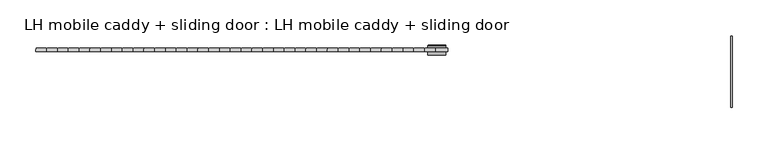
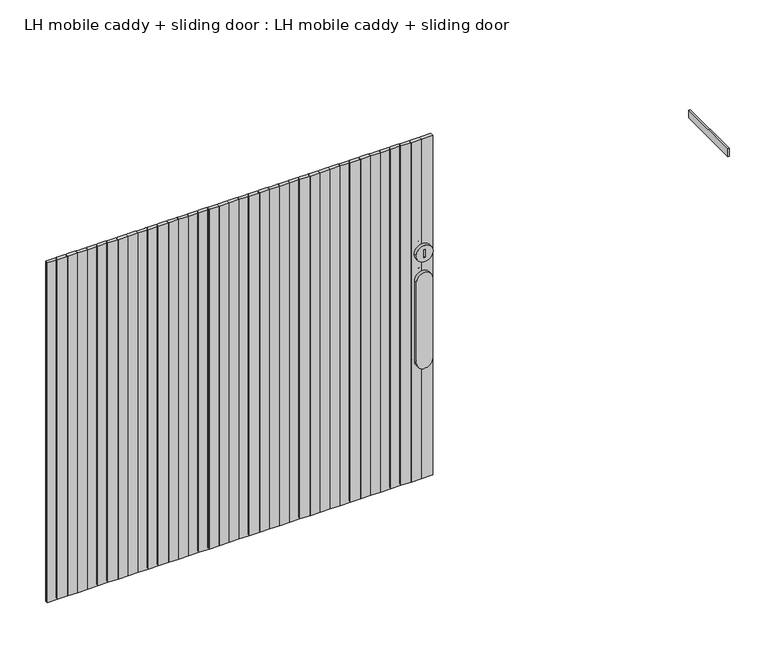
"""IFC4 building model written with IfcOpenShell, lengths in millimetres: furniture geometry, LH mobile caddy + sliding door : LH mobile caddy + sliding door."""

from ifc_helpers import new_model, si_unit, point, frame, frame_2d, origin, place, context, project, spatial, polyline, circle_curve, ellipse_curve, trimmed, segment, composite_curve, outline, extrude, source, transform, mapped, element, save
from ifc_brep_helpers import plane_surface, cylinder_surface, revolved_surface, advanced_brep


def lh_mobile_caddy_sliding_door_lh_mobile_caddy_sliding_door_960350dd(model_context):
    return source(origin(), model_context, "Body", "SolidModel", [
        advanced_brep(
        [(73.4473365, 237.0, 419.8527704), (96.5526635, 237.0, 419.8527704), (86.0273848, 237.0, 425.9207724), (84.0273848, 237.0, 425.9207724), (84.0273848, 237.0, 413.9207724), (86.0273848, 237.0, 413.9207724), (72.4473365, 223.0, 419.8527704), (97.5526635, 223.0, 419.8527704), (86.0273848, 223.0, 425.9207724), (86.0273848, 223.0, 413.9207724), (84.0273848, 223.0, 413.9207724), (84.0273848, 223.0, 425.9207724), (72.4473365, 236.0, 419.8527704), (97.5526635, 236.0, 419.8527704)],
        [
            (0, 1, circle_curve(frame((85.0, 237.0, 419.8527704), z_axis=(0.0, 1.0, 0.0), x_axis=(-1.0, 0.0, 0.0)), 11.5526635)),
            (1, 0, circle_curve(frame((85.0, 237.0, 419.8527704), z_axis=(0.0, 1.0, 0.0), x_axis=(1.0, 0.0, 0.0)), 11.5526635)),
            (2, 3),
            (3, 4),
            (4, 5),
            (5, 2),
            (6, 7, circle_curve(frame((85.0, 223.0, 419.8527704), z_axis=(0.0, -1.0, 0.0), x_axis=(1.0, 0.0, 0.0)), 12.5526635)),
            (7, 6, circle_curve(frame((85.0, 223.0, 419.8527704), z_axis=(0.0, -1.0, 0.0), x_axis=(1.0, 0.0, 0.0)), 12.5526635)),
            (8, 9),
            (9, 10),
            (10, 11),
            (11, 8),
            (6, 12),
            (12, 13, circle_curve(frame((85.0, 236.0, 419.8527704), z_axis=(0.0, -1.0, 0.0), x_axis=(1.0, 0.0, 0.0)), 12.5526635)),
            (13, 7),
            (13, 12, circle_curve(frame((85.0, 236.0, 419.8527704), z_axis=(0.0, -1.0, 0.0), x_axis=(1.0, 0.0, 0.0)), 12.5526635)),
            (5, 9),
            (8, 2),
            (4, 10),
            (3, 11),
            (1, 13, circle_curve(frame((96.5526635, 236.0, 419.8527704), z_axis=(0.0, 0.0, -1.0), x_axis=(1.0, 0.0, 0.0)), 1.0)),
            (12, 0, circle_curve(frame((73.4473365, 236.0, 419.8527704), z_axis=(0.0, 0.0, -1.0), x_axis=(-1.0, 0.0, 0.0)), 1.0)),
        ],
        [
            plane_surface(frame((97.5526635, 237.0, 419.8527704), z_axis=(0.0, 1.0, 0.0), x_axis=(0.0, 0.0, 1.0))),
            plane_surface(frame((97.5526635, 223.0, 419.8527704), z_axis=(0.0, -1.0, 0.0), x_axis=(0.0, 0.0, -1.0))),
            cylinder_surface(frame((85.0, 223.0, 419.8527704), z_axis=(0.0, 1.0, 0.0), x_axis=(1.0, 0.0, 0.0)), 12.5526635),
            plane_surface(frame((86.0273848, 237.0, 425.9207724), z_axis=(-1.0, 0.0, 0.0), x_axis=(0.0, -1.0, 0.0))),
            plane_surface(frame((86.0273848, 237.0, 413.9207724), z_axis=(0.0, 0.0, 1.0), x_axis=(0.0, -1.0, 0.0))),
            plane_surface(frame((84.0273848, 237.0, 413.9207724), z_axis=(1.0, 0.0, 0.0), x_axis=(0.0, -1.0, 0.0))),
            plane_surface(frame((84.0273848, 237.0, 425.9207724), z_axis=(0.0, 0.0, -1.0), x_axis=(0.0, -1.0, 0.0))),
            revolved_surface(trimmed(ellipse_curve(frame((96.5526635, 236.0, 419.8527704), z_axis=(0.0, 0.0, -1.0), x_axis=(1.0, 0.0, 0.0)), 1.0, 1.0), [point((96.5526635, 237.0, 419.8527704))], [point((97.5526635, 236.0, 419.8527704))], True, "CARTESIAN"), (85.0, 237.0, 419.8527704), (0.0, -1.0, 0.0)),
            revolved_surface(trimmed(ellipse_curve(frame((73.4473365, 236.0, 419.8527704), z_axis=(0.0, 0.0, 1.0), x_axis=(-1.0, 0.0, 0.0)), 1.0, 1.0), [point((73.4473365, 237.0, 419.8527704))], [point((72.4473365, 236.0, 419.8527704))], True, "CARTESIAN"), (85.0, 237.0, 419.8527704), (0.0, -1.0, 0.0)),
        ],
        [
            (0, [[1, 2], [3, 4, 5, 6]]),
            (1, [[7, 8], [9, 10, 11, 12]]),
            (2, [[13, 14, 15, -7]]),
            (2, [[-15, 16, -13, -8]]),
            (3, [[17, -9, 18, -6]]),
            (4, [[19, -10, -17, -5]]),
            (5, [[20, -11, -19, -4]]),
            (6, [[-18, -12, -20, -3]]),
            (7, [[-2, 21, -14, 22]]),
            (8, [[-16, -21, -1, -22]]),
        ],
    ),
        advanced_brep(
        [(96.0273848, 237.0, 251.8044067), (74.0273848, 237.0, 251.8044067), (74.0273848, 237.0, 377.9549605), (96.0273848, 237.0, 377.9549605), (76.0273848, 237.0, 251.9483873), (94.0273848, 237.0, 251.9483873), (94.0273848, 237.0, 377.9437639), (76.0273848, 237.0, 377.9437639), (73.0273848, 236.0, 251.8044067), (97.0273848, 236.0, 251.8044067), (97.0273848, 234.0, 251.8044067), (73.0273848, 234.0, 251.8044067), (97.0273848, 236.0, 377.9549605), (97.0273848, 234.0, 377.9549605), (97.0273848, 223.0, 377.9549605), (97.0273848, 223.0, 251.8044067), (73.0273848, 236.0, 377.9549605), (73.0273848, 234.0, 377.9549605), (73.0273848, 223.0, 251.8044067), (73.0273848, 223.0, 377.9549605), (77.0273848, 236.0, 377.9437639), (93.0273848, 236.0, 377.9437639), (93.0273848, 234.0, 377.9437639), (77.0273848, 234.0, 377.9437639), (93.0273848, 236.0, 251.9483873), (93.0273848, 234.0, 251.9483873), (77.0273848, 236.0, 251.9483873), (77.0273848, 234.0, 251.9483873)],
        [
            (0, 1, circle_curve(frame((85.0273848, 237.0, 251.8044067), z_axis=(0.0, 1.0, 0.0), x_axis=(1.0, 0.0, 0.0)), 11.0)),
            (1, 2),
            (2, 3, circle_curve(frame((85.0273848, 237.0, 377.9549605), z_axis=(0.0, 1.0, 0.0), x_axis=(-1.0, 0.0, 0.0)), 11.0)),
            (3, 0),
            (4, 5, circle_curve(frame((85.0273848, 237.0, 251.9483873), z_axis=(0.0, -1.0, 0.0), x_axis=(-1.0, 0.0, 0.0)), 9.0)),
            (5, 6),
            (6, 7, circle_curve(frame((85.0273848, 237.0, 377.9437639), z_axis=(0.0, -1.0, 0.0), x_axis=(1.0, 0.0, 0.0)), 9.0)),
            (7, 4),
            (8, 9, circle_curve(frame((85.0273848, 236.0, 251.8044067), z_axis=(0.0, -1.0, 0.0), x_axis=(1.0, 0.0, 0.0)), 12.0)),
            (9, 10),
            (10, 11, circle_curve(frame((85.0273848, 234.0, 251.8044067), z_axis=(0.0, 1.0, 0.0), x_axis=(1.0, 0.0, 0.0)), 12.0)),
            (11, 8),
            (9, 12),
            (12, 13),
            (13, 14),
            (14, 15),
            (15, 10),
            (12, 16, circle_curve(frame((85.0273848, 236.0, 377.9549605), z_axis=(0.0, -1.0, 0.0), x_axis=(1.0, 0.0, 0.0)), 12.0)),
            (16, 17),
            (17, 13, circle_curve(frame((85.0273848, 234.0, 377.9549605), z_axis=(0.0, 1.0, 0.0), x_axis=(1.0, 0.0, 0.0)), 12.0)),
            (11, 18),
            (18, 19),
            (19, 17),
            (16, 8),
            (20, 21, circle_curve(frame((85.0273848, 236.0, 377.9437639), z_axis=(0.0, 1.0, 0.0), x_axis=(1.0, 0.0, 0.0)), 8.0)),
            (21, 22),
            (22, 23, circle_curve(frame((85.0273848, 234.0, 377.9437639), z_axis=(0.0, -1.0, 0.0), x_axis=(1.0, 0.0, 0.0)), 8.0)),
            (23, 20),
            (21, 24),
            (24, 25),
            (25, 22),
            (24, 26, circle_curve(frame((85.0273848, 236.0, 251.9483873), z_axis=(0.0, 1.0, 0.0), x_axis=(1.0, 0.0, 0.0)), 8.0)),
            (26, 27),
            (27, 25, circle_curve(frame((85.0273848, 234.0, 251.9483873), z_axis=(0.0, -1.0, 0.0), x_axis=(1.0, 0.0, 0.0)), 8.0)),
            (23, 27),
            (26, 20),
            (7, 20, circle_curve(frame((76.0273848, 236.0, 377.9437639), z_axis=(0.0, 0.0, -1.0), x_axis=(-1.0, 0.0, 0.0)), 1.0)),
            (26, 4, circle_curve(frame((76.0273848, 236.0, 251.9483873), z_axis=(0.0, 0.0, 1.0), x_axis=(-1.0, 0.0, 0.0)), 1.0)),
            (24, 5, circle_curve(frame((94.0273848, 236.0, 251.9483873), z_axis=(0.0, 0.0, -1.0), x_axis=(1.0, 0.0, 0.0)), 1.0)),
            (21, 6, circle_curve(frame((94.0273848, 236.0, 377.9437639), z_axis=(0.0, 0.0, -1.0), x_axis=(1.0, 0.0, 0.0)), 1.0)),
            (3, 12, circle_curve(frame((96.0273848, 236.0, 377.9549605), z_axis=(0.0, 0.0, -1.0), x_axis=(1.0, 0.0, 0.0)), 1.0)),
            (9, 0, circle_curve(frame((96.0273848, 236.0, 251.8044067), z_axis=(0.0, 0.0, 1.0), x_axis=(1.0, 0.0, 0.0)), 1.0)),
            (8, 1, circle_curve(frame((74.0273848, 236.0, 251.8044067), z_axis=(0.0, 0.0, -1.0), x_axis=(-1.0, 0.0, 0.0)), 1.0)),
            (16, 2, circle_curve(frame((74.0273848, 236.0, 377.9549605), z_axis=(0.0, 0.0, -1.0), x_axis=(-1.0, 0.0, 0.0)), 1.0)),
            (18, 15, circle_curve(frame((85.0273848, 223.0, 251.8044067), z_axis=(0.0, -1.0, 0.0), x_axis=(1.0, 0.0, 0.0)), 12.0)),
            (14, 19, circle_curve(frame((85.0273848, 223.0, 377.9549605), z_axis=(0.0, -1.0, 0.0), x_axis=(1.0, 0.0, 0.0)), 12.0)),
        ],
        [
            plane_surface(frame((97.0273848, 237.0, 251.8044067), z_axis=(0.0, 1.0, 0.0), x_axis=(0.0, 0.0, 1.0))),
            cylinder_surface(frame((85.0273848, 234.0, 251.8044067), z_axis=(0.0, 1.0, 0.0), x_axis=(1.0, 0.0, 0.0)), 12.0),
            plane_surface(frame((97.0273848, 237.0, 251.8044067), z_axis=(1.0, 0.0, 0.0), x_axis=(0.0, -1.0, 0.0))),
            cylinder_surface(frame((85.0273848, 234.0, 377.9549605), z_axis=(0.0, 1.0, 0.0), x_axis=(1.0, 0.0, 0.0)), 12.0),
            plane_surface(frame((73.0273848, 237.0, 377.9549605), z_axis=(-1.0, 0.0, 0.0), x_axis=(0.0, -1.0, 0.0))),
            revolved_surface(polyline([(93.0273848, 234.0, 377.9437639), (93.0273848, 236.0, 377.9437639)]), (85.0273848, 237.0, 377.9437639), (0.0, -1.0, 0.0)),
            plane_surface(frame((93.0273848, 237.0, 377.9437639), z_axis=(-1.0, 0.0, 0.0), x_axis=(0.0, -1.0, 0.0))),
            revolved_surface(polyline([(93.0273848, 234.0, 251.9483873), (93.0273848, 236.0, 251.9483873)]), (85.0273848, 237.0, 251.9483873), (0.0, -1.0, 0.0)),
            plane_surface(frame((77.0273848, 237.0, 251.9483873), z_axis=(1.0, 0.0, 0.0), x_axis=(0.0, -1.0, 0.0))),
            cylinder_surface(frame((76.0273848, 236.0, 377.9437639), z_axis=(0.0, 0.0, -1.0), x_axis=(-1.0, 0.0, 0.0)), 1.0),
            revolved_surface(trimmed(ellipse_curve(frame((76.0273848, 236.0, 251.9483873), z_axis=(0.0, 0.0, -1.0), x_axis=(-1.0, 0.0, 0.0)), 1.0, 1.0), [point((76.0273848, 237.0, 251.9483873))], [point((77.0273848, 236.0, 251.9483873))], True, "CARTESIAN"), (85.0273848, 237.0, 251.9483873), (0.0, 1.0, 0.0)),
            cylinder_surface(frame((94.0273848, 236.0, 251.9483873), z_axis=(0.0, 0.0, 1.0), x_axis=(1.0, 0.0, 0.0)), 1.0),
            revolved_surface(trimmed(ellipse_curve(frame((94.0273848, 236.0, 377.9437639), z_axis=(0.0, 0.0, 1.0), x_axis=(1.0, 0.0, 0.0)), 1.0, 1.0), [point((94.0273848, 237.0, 377.9437639))], [point((93.0273848, 236.0, 377.9437639))], True, "CARTESIAN"), (85.0273848, 237.0, 377.9437639), (0.0, 1.0, 0.0)),
            cylinder_surface(frame((96.0273848, 236.0, 377.9549605), z_axis=(0.0, 0.0, -1.0), x_axis=(1.0, 0.0, 0.0)), 1.0),
            revolved_surface(trimmed(ellipse_curve(frame((96.0273848, 236.0, 251.8044067), z_axis=(0.0, 0.0, -1.0), x_axis=(1.0, 0.0, 0.0)), 1.0, 1.0), [point((96.0273848, 237.0, 251.8044067))], [point((97.0273848, 236.0, 251.8044067))], True, "CARTESIAN"), (85.0273848, 237.0, 251.8044067), (0.0, -1.0, 0.0)),
            cylinder_surface(frame((74.0273848, 236.0, 251.8044067), z_axis=(0.0, 0.0, 1.0), x_axis=(-1.0, 0.0, 0.0)), 1.0),
            revolved_surface(trimmed(ellipse_curve(frame((74.0273848, 236.0, 377.9549605), z_axis=(0.0, 0.0, 1.0), x_axis=(-1.0, 0.0, 0.0)), 1.0, 1.0), [point((74.0273848, 237.0, 377.9549605))], [point((73.0273848, 236.0, 377.9549605))], True, "CARTESIAN"), (85.0273848, 237.0, 377.9549605), (0.0, -1.0, 0.0)),
            plane_surface(frame((97.0273848, 234.0, 251.8044067), z_axis=(0.0, 1.0, 0.0), x_axis=(0.0, 0.0, 1.0))),
            plane_surface(frame((97.0273848, 223.0, 251.8044067), z_axis=(0.0, -1.0, 0.0), x_axis=(0.0, 0.0, -1.0))),
            cylinder_surface(frame((85.0273848, 223.0, 251.8044067), z_axis=(0.0, 1.0, 0.0), x_axis=(1.0, 0.0, 0.0)), 12.0),
            cylinder_surface(frame((85.0273848, 223.0, 377.9549605), z_axis=(0.0, 1.0, 0.0), x_axis=(1.0, 0.0, 0.0)), 12.0),
        ],
        [
            (0, [[1, 2, 3, 4], [5, 6, 7, 8]]),
            (1, [[9, 10, 11, 12]]),
            (2, [[13, 14, 15, 16, 17, -10]]),
            (3, [[18, 19, 20, -14]]),
            (4, [[21, 22, 23, -19, 24, -12]]),
            (5, [[25, 26, 27, 28]]),
            (6, [[29, 30, 31, -26]]),
            (7, [[32, 33, 34, -30]]),
            (8, [[35, -33, 36, -28]]),
            (9, [[-8, 37, -36, 38]]),
            (10, [[-32, 39, -5, -38]]),
            (11, [[-29, 40, -6, -39]]),
            (12, [[-7, -40, -25, -37]]),
            (13, [[-4, 41, -13, 42]]),
            (14, [[-9, 43, -1, -42]]),
            (15, [[-24, 44, -2, -43]]),
            (16, [[-3, -44, -18, -41]]),
            (17, [[-31, -34, -35, -27]]),
            (18, [[45, -16, 46, -22]]),
            (19, [[-21, -11, -17, -45]]),
            (20, [[-15, -20, -23, -46]]),
        ],
    ),
        extrude(outline(composite_curve([segment(polyline([(82.9948684, 228.2249016), (67.9948684, 228.2249016), (67.9948684, 231.2249016)]), True, "CONTINUOUS"), segment(trimmed(circle_curve(frame_2d((69.9948684, 231.2249016)), 2.0), [point((67.9948684, 231.2249016))], [point((69.9948684, 233.2249016))], False, "CARTESIAN"), True, "CONTINUOUS"), segment(polyline([(69.9948684, 233.2249016), (80.9948684, 233.2249016)]), True, "CONTINUOUS"), segment(trimmed(circle_curve(frame_2d((80.9948684, 231.2249016)), 2.0), [point((80.9948684, 233.2249016))], [point((82.9948684, 231.2249016))], False, "CARTESIAN"), True, "CONTINUOUS"), segment(polyline([(82.9948684, 231.2249016), (82.9948684, 228.2249016)]), True, "CONTINUOUS")], self_intersect=False)), frame((0.0, 0.0, 63.9114638), z_axis=(0.0, 0.0, 1.0), x_axis=(1.0, 0.0, 0.0)), (0.0, 0.0, 1.0), 533.0),
        extrude(outline(composite_curve([segment(polyline([(67.9948684, 228.2249016), (52.9948684, 228.2249016), (52.9948684, 231.2249016)]), True, "CONTINUOUS"), segment(trimmed(circle_curve(frame_2d((54.9948684, 231.2249016)), 2.0), [point((52.9948684, 231.2249016))], [point((54.9948684, 233.2249016))], False, "CARTESIAN"), True, "CONTINUOUS"), segment(polyline([(54.9948684, 233.2249016), (65.9948684, 233.2249016)]), True, "CONTINUOUS"), segment(trimmed(circle_curve(frame_2d((65.9948684, 231.2249016)), 2.0), [point((65.9948684, 233.2249016))], [point((67.9948684, 231.2249016))], False, "CARTESIAN"), True, "CONTINUOUS"), segment(polyline([(67.9948684, 231.2249016), (67.9948684, 228.2249016)]), True, "CONTINUOUS")], self_intersect=False)), frame((0.0, 0.0, 63.9114638), z_axis=(0.0, 0.0, 1.0), x_axis=(1.0, 0.0, 0.0)), (0.0, 0.0, 1.0), 533.0),
        extrude(outline(composite_curve([segment(polyline([(52.9948684, 228.2249016), (37.9948684, 228.2249016), (37.9948684, 231.2249016)]), True, "CONTINUOUS"), segment(trimmed(circle_curve(frame_2d((39.9948684, 231.2249016)), 2.0), [point((37.9948684, 231.2249016))], [point((39.9948684, 233.2249016))], False, "CARTESIAN"), True, "CONTINUOUS"), segment(polyline([(39.9948684, 233.2249016), (50.9948684, 233.2249016)]), True, "CONTINUOUS"), segment(trimmed(circle_curve(frame_2d((50.9948684, 231.2249016)), 2.0), [point((50.9948684, 233.2249016))], [point((52.9948684, 231.2249016))], False, "CARTESIAN"), True, "CONTINUOUS"), segment(polyline([(52.9948684, 231.2249016), (52.9948684, 228.2249016)]), True, "CONTINUOUS")], self_intersect=False)), frame((0.0, 0.0, 63.9114638), z_axis=(0.0, 0.0, 1.0), x_axis=(1.0, 0.0, 0.0)), (0.0, 0.0, 1.0), 533.0),
        extrude(outline(composite_curve([segment(polyline([(37.9948684, 228.2249016), (22.9948684, 228.2249016), (22.9948684, 231.2249016)]), True, "CONTINUOUS"), segment(trimmed(circle_curve(frame_2d((24.9948684, 231.2249016)), 2.0), [point((22.9948684, 231.2249016))], [point((24.9948684, 233.2249016))], False, "CARTESIAN"), True, "CONTINUOUS"), segment(polyline([(24.9948684, 233.2249016), (35.9948684, 233.2249016)]), True, "CONTINUOUS"), segment(trimmed(circle_curve(frame_2d((35.9948684, 231.2249016)), 2.0), [point((35.9948684, 233.2249016))], [point((37.9948684, 231.2249016))], False, "CARTESIAN"), True, "CONTINUOUS"), segment(polyline([(37.9948684, 231.2249016), (37.9948684, 228.2249016)]), True, "CONTINUOUS")], self_intersect=False)), frame((0.0, 0.0, 63.9114638), z_axis=(0.0, 0.0, 1.0), x_axis=(1.0, 0.0, 0.0)), (0.0, 0.0, 1.0), 533.0),
        extrude(outline(composite_curve([segment(polyline([(22.9948684, 228.2249016), (7.9948684, 228.2249016), (7.9948684, 231.2249016)]), True, "CONTINUOUS"), segment(trimmed(circle_curve(frame_2d((9.9948684, 231.2249016)), 2.0), [point((7.9948684, 231.2249016))], [point((9.9948684, 233.2249016))], False, "CARTESIAN"), True, "CONTINUOUS"), segment(polyline([(9.9948684, 233.2249016), (20.9948684, 233.2249016)]), True, "CONTINUOUS"), segment(trimmed(circle_curve(frame_2d((20.9948684, 231.2249016)), 2.0), [point((20.9948684, 233.2249016))], [point((22.9948684, 231.2249016))], False, "CARTESIAN"), True, "CONTINUOUS"), segment(polyline([(22.9948684, 231.2249016), (22.9948684, 228.2249016)]), True, "CONTINUOUS")], self_intersect=False)), frame((0.0, 0.0, 63.9114638), z_axis=(0.0, 0.0, 1.0), x_axis=(1.0, 0.0, 0.0)), (0.0, 0.0, 1.0), 533.0),
        extrude(outline(composite_curve([segment(polyline([(7.9948684, 228.2249016), (-7.0051316, 228.2249016), (-7.0051316, 231.2249016)]), True, "CONTINUOUS"), segment(trimmed(circle_curve(frame_2d((-5.0051316, 231.2249016)), 2.0), [point((-7.0051316, 231.2249016))], [point((-5.0051316, 233.2249016))], False, "CARTESIAN"), True, "CONTINUOUS"), segment(polyline([(-5.0051316, 233.2249016), (5.9948684, 233.2249016)]), True, "CONTINUOUS"), segment(trimmed(circle_curve(frame_2d((5.9948684, 231.2249016)), 2.0), [point((5.9948684, 233.2249016))], [point((7.9948684, 231.2249016))], False, "CARTESIAN"), True, "CONTINUOUS"), segment(polyline([(7.9948684, 231.2249016), (7.9948684, 228.2249016)]), True, "CONTINUOUS")], self_intersect=False)), frame((0.0, 0.0, 63.9114638), z_axis=(0.0, 0.0, 1.0), x_axis=(1.0, 0.0, 0.0)), (0.0, 0.0, 1.0), 533.0),
        extrude(outline(composite_curve([segment(polyline([(-7.0051316, 228.2249016), (-22.0051316, 228.2249016), (-22.0051316, 231.2249016)]), True, "CONTINUOUS"), segment(trimmed(circle_curve(frame_2d((-20.0051316, 231.2249016)), 2.0), [point((-22.0051316, 231.2249016))], [point((-20.0051316, 233.2249016))], False, "CARTESIAN"), True, "CONTINUOUS"), segment(polyline([(-20.0051316, 233.2249016), (-9.0051316, 233.2249016)]), True, "CONTINUOUS"), segment(trimmed(circle_curve(frame_2d((-9.0051316, 231.2249016)), 2.0), [point((-9.0051316, 233.2249016))], [point((-7.0051316, 231.2249016))], False, "CARTESIAN"), True, "CONTINUOUS"), segment(polyline([(-7.0051316, 231.2249016), (-7.0051316, 228.2249016)]), True, "CONTINUOUS")], self_intersect=False)), frame((0.0, 0.0, 63.9114638), z_axis=(0.0, 0.0, 1.0), x_axis=(1.0, 0.0, 0.0)), (0.0, 0.0, 1.0), 533.0),
        extrude(outline(composite_curve([segment(polyline([(-22.0051316, 228.2249016), (-37.0051316, 228.2249016), (-37.0051316, 231.2249016)]), True, "CONTINUOUS"), segment(trimmed(circle_curve(frame_2d((-35.0051316, 231.2249016)), 2.0), [point((-37.0051316, 231.2249016))], [point((-35.0051316, 233.2249016))], False, "CARTESIAN"), True, "CONTINUOUS"), segment(polyline([(-35.0051316, 233.2249016), (-24.0051316, 233.2249016)]), True, "CONTINUOUS"), segment(trimmed(circle_curve(frame_2d((-24.0051316, 231.2249016)), 2.0), [point((-24.0051316, 233.2249016))], [point((-22.0051316, 231.2249016))], False, "CARTESIAN"), True, "CONTINUOUS"), segment(polyline([(-22.0051316, 231.2249016), (-22.0051316, 228.2249016)]), True, "CONTINUOUS")], self_intersect=False)), frame((0.0, 0.0, 63.9114638), z_axis=(0.0, 0.0, 1.0), x_axis=(1.0, 0.0, 0.0)), (0.0, 0.0, 1.0), 533.0),
        extrude(outline(composite_curve([segment(polyline([(-37.0051316, 228.2249016), (-52.0051316, 228.2249016), (-52.0051316, 231.2249016)]), True, "CONTINUOUS"), segment(trimmed(circle_curve(frame_2d((-50.0051316, 231.2249016)), 2.0), [point((-52.0051316, 231.2249016))], [point((-50.0051316, 233.2249016))], False, "CARTESIAN"), True, "CONTINUOUS"), segment(polyline([(-50.0051316, 233.2249016), (-39.0051316, 233.2249016)]), True, "CONTINUOUS"), segment(trimmed(circle_curve(frame_2d((-39.0051316, 231.2249016)), 2.0), [point((-39.0051316, 233.2249016))], [point((-37.0051316, 231.2249016))], False, "CARTESIAN"), True, "CONTINUOUS"), segment(polyline([(-37.0051316, 231.2249016), (-37.0051316, 228.2249016)]), True, "CONTINUOUS")], self_intersect=False)), frame((0.0, 0.0, 63.9114638), z_axis=(0.0, 0.0, 1.0), x_axis=(1.0, 0.0, 0.0)), (0.0, 0.0, 1.0), 533.0),
        extrude(outline(composite_curve([segment(polyline([(-52.0051316, 228.2249016), (-67.0051316, 228.2249016), (-67.0051316, 231.2249016)]), True, "CONTINUOUS"), segment(trimmed(circle_curve(frame_2d((-65.0051316, 231.2249016)), 2.0), [point((-67.0051316, 231.2249016))], [point((-65.0051316, 233.2249016))], False, "CARTESIAN"), True, "CONTINUOUS"), segment(polyline([(-65.0051316, 233.2249016), (-54.0051316, 233.2249016)]), True, "CONTINUOUS"), segment(trimmed(circle_curve(frame_2d((-54.0051316, 231.2249016)), 2.0), [point((-54.0051316, 233.2249016))], [point((-52.0051316, 231.2249016))], False, "CARTESIAN"), True, "CONTINUOUS"), segment(polyline([(-52.0051316, 231.2249016), (-52.0051316, 228.2249016)]), True, "CONTINUOUS")], self_intersect=False)), frame((0.0, 0.0, 63.9114638), z_axis=(0.0, 0.0, 1.0), x_axis=(1.0, 0.0, 0.0)), (0.0, 0.0, 1.0), 533.0),
        extrude(outline(composite_curve([segment(polyline([(-67.0051316, 228.2249016), (-82.0051316, 228.2249016), (-82.0051316, 231.2249016)]), True, "CONTINUOUS"), segment(trimmed(circle_curve(frame_2d((-80.0051316, 231.2249016)), 2.0), [point((-82.0051316, 231.2249016))], [point((-80.0051316, 233.2249016))], False, "CARTESIAN"), True, "CONTINUOUS"), segment(polyline([(-80.0051316, 233.2249016), (-69.0051316, 233.2249016)]), True, "CONTINUOUS"), segment(trimmed(circle_curve(frame_2d((-69.0051316, 231.2249016)), 2.0), [point((-69.0051316, 233.2249016))], [point((-67.0051316, 231.2249016))], False, "CARTESIAN"), True, "CONTINUOUS"), segment(polyline([(-67.0051316, 231.2249016), (-67.0051316, 228.2249016)]), True, "CONTINUOUS")], self_intersect=False)), frame((0.0, 0.0, 63.9114638), z_axis=(0.0, 0.0, 1.0), x_axis=(1.0, 0.0, 0.0)), (0.0, 0.0, 1.0), 533.0),
        extrude(outline(composite_curve([segment(polyline([(-82.0051316, 228.2249016), (-97.0051316, 228.2249016), (-97.0051316, 231.2249016)]), True, "CONTINUOUS"), segment(trimmed(circle_curve(frame_2d((-95.0051316, 231.2249016)), 2.0), [point((-97.0051316, 231.2249016))], [point((-95.0051316, 233.2249016))], False, "CARTESIAN"), True, "CONTINUOUS"), segment(polyline([(-95.0051316, 233.2249016), (-84.0051316, 233.2249016)]), True, "CONTINUOUS"), segment(trimmed(circle_curve(frame_2d((-84.0051316, 231.2249016)), 2.0), [point((-84.0051316, 233.2249016))], [point((-82.0051316, 231.2249016))], False, "CARTESIAN"), True, "CONTINUOUS"), segment(polyline([(-82.0051316, 231.2249016), (-82.0051316, 228.2249016)]), True, "CONTINUOUS")], self_intersect=False)), frame((0.0, 0.0, 63.9114638), z_axis=(0.0, 0.0, 1.0), x_axis=(1.0, 0.0, 0.0)), (0.0, 0.0, 1.0), 533.0),
        extrude(outline(composite_curve([segment(polyline([(-97.0051316, 228.2249016), (-112.0051316, 228.2249016), (-112.0051316, 231.2249016)]), True, "CONTINUOUS"), segment(trimmed(circle_curve(frame_2d((-110.0051316, 231.2249016)), 2.0), [point((-112.0051316, 231.2249016))], [point((-110.0051316, 233.2249016))], False, "CARTESIAN"), True, "CONTINUOUS"), segment(polyline([(-110.0051316, 233.2249016), (-99.0051316, 233.2249016)]), True, "CONTINUOUS"), segment(trimmed(circle_curve(frame_2d((-99.0051316, 231.2249016)), 2.0), [point((-99.0051316, 233.2249016))], [point((-97.0051316, 231.2249016))], False, "CARTESIAN"), True, "CONTINUOUS"), segment(polyline([(-97.0051316, 231.2249016), (-97.0051316, 228.2249016)]), True, "CONTINUOUS")], self_intersect=False)), frame((0.0, 0.0, 63.9114638), z_axis=(0.0, 0.0, 1.0), x_axis=(1.0, 0.0, 0.0)), (0.0, 0.0, 1.0), 533.0),
        extrude(outline(composite_curve([segment(polyline([(-112.0051316, 228.2249016), (-127.0051316, 228.2249016), (-127.0051316, 231.2249016)]), True, "CONTINUOUS"), segment(trimmed(circle_curve(frame_2d((-125.0051316, 231.2249016)), 2.0), [point((-127.0051316, 231.2249016))], [point((-125.0051316, 233.2249016))], False, "CARTESIAN"), True, "CONTINUOUS"), segment(polyline([(-125.0051316, 233.2249016), (-114.0051316, 233.2249016)]), True, "CONTINUOUS"), segment(trimmed(circle_curve(frame_2d((-114.0051316, 231.2249016)), 2.0), [point((-114.0051316, 233.2249016))], [point((-112.0051316, 231.2249016))], False, "CARTESIAN"), True, "CONTINUOUS"), segment(polyline([(-112.0051316, 231.2249016), (-112.0051316, 228.2249016)]), True, "CONTINUOUS")], self_intersect=False)), frame((0.0, 0.0, 63.9114638), z_axis=(0.0, 0.0, 1.0), x_axis=(1.0, 0.0, 0.0)), (0.0, 0.0, 1.0), 533.0),
        extrude(outline(composite_curve([segment(polyline([(-127.0051316, 228.2249016), (-142.0051316, 228.2249016), (-142.0051316, 231.2249016)]), True, "CONTINUOUS"), segment(trimmed(circle_curve(frame_2d((-140.0051316, 231.2249016)), 2.0), [point((-142.0051316, 231.2249016))], [point((-140.0051316, 233.2249016))], False, "CARTESIAN"), True, "CONTINUOUS"), segment(polyline([(-140.0051316, 233.2249016), (-129.0051316, 233.2249016)]), True, "CONTINUOUS"), segment(trimmed(circle_curve(frame_2d((-129.0051316, 231.2249016)), 2.0), [point((-129.0051316, 233.2249016))], [point((-127.0051316, 231.2249016))], False, "CARTESIAN"), True, "CONTINUOUS"), segment(polyline([(-127.0051316, 231.2249016), (-127.0051316, 228.2249016)]), True, "CONTINUOUS")], self_intersect=False)), frame((0.0, 0.0, 63.9114638), z_axis=(0.0, 0.0, 1.0), x_axis=(1.0, 0.0, 0.0)), (0.0, 0.0, 1.0), 533.0),
        extrude(outline(composite_curve([segment(polyline([(-142.0051316, 228.2249016), (-157.0051316, 228.2249016), (-157.0051316, 231.2249016)]), True, "CONTINUOUS"), segment(trimmed(circle_curve(frame_2d((-155.0051316, 231.2249016)), 2.0), [point((-157.0051316, 231.2249016))], [point((-155.0051316, 233.2249016))], False, "CARTESIAN"), True, "CONTINUOUS"), segment(polyline([(-155.0051316, 233.2249016), (-144.0051316, 233.2249016)]), True, "CONTINUOUS"), segment(trimmed(circle_curve(frame_2d((-144.0051316, 231.2249016)), 2.0), [point((-144.0051316, 233.2249016))], [point((-142.0051316, 231.2249016))], False, "CARTESIAN"), True, "CONTINUOUS"), segment(polyline([(-142.0051316, 231.2249016), (-142.0051316, 228.2249016)]), True, "CONTINUOUS")], self_intersect=False)), frame((0.0, 0.0, 63.9114638), z_axis=(0.0, 0.0, 1.0), x_axis=(1.0, 0.0, 0.0)), (0.0, 0.0, 1.0), 533.0),
        extrude(outline(composite_curve([segment(polyline([(-157.0051316, 228.2249016), (-172.0051316, 228.2249016), (-172.0051316, 231.2249016)]), True, "CONTINUOUS"), segment(trimmed(circle_curve(frame_2d((-170.0051316, 231.2249016)), 2.0), [point((-172.0051316, 231.2249016))], [point((-170.0051316, 233.2249016))], False, "CARTESIAN"), True, "CONTINUOUS"), segment(polyline([(-170.0051316, 233.2249016), (-159.0051316, 233.2249016)]), True, "CONTINUOUS"), segment(trimmed(circle_curve(frame_2d((-159.0051316, 231.2249016)), 2.0), [point((-159.0051316, 233.2249016))], [point((-157.0051316, 231.2249016))], False, "CARTESIAN"), True, "CONTINUOUS"), segment(polyline([(-157.0051316, 231.2249016), (-157.0051316, 228.2249016)]), True, "CONTINUOUS")], self_intersect=False)), frame((0.0, 0.0, 63.9114638), z_axis=(0.0, 0.0, 1.0), x_axis=(1.0, 0.0, 0.0)), (0.0, 0.0, 1.0), 533.0),
        extrude(outline(composite_curve([segment(polyline([(-172.0051316, 228.2249016), (-187.0051316, 228.2249016), (-187.0051316, 231.2249016)]), True, "CONTINUOUS"), segment(trimmed(circle_curve(frame_2d((-185.0051316, 231.2249016)), 2.0), [point((-187.0051316, 231.2249016))], [point((-185.0051316, 233.2249016))], False, "CARTESIAN"), True, "CONTINUOUS"), segment(polyline([(-185.0051316, 233.2249016), (-174.0051316, 233.2249016)]), True, "CONTINUOUS"), segment(trimmed(circle_curve(frame_2d((-174.0051316, 231.2249016)), 2.0), [point((-174.0051316, 233.2249016))], [point((-172.0051316, 231.2249016))], False, "CARTESIAN"), True, "CONTINUOUS"), segment(polyline([(-172.0051316, 231.2249016), (-172.0051316, 228.2249016)]), True, "CONTINUOUS")], self_intersect=False)), frame((0.0, 0.0, 63.9114638), z_axis=(0.0, 0.0, 1.0), x_axis=(1.0, 0.0, 0.0)), (0.0, 0.0, 1.0), 533.0),
        extrude(outline(composite_curve([segment(polyline([(-187.0051316, 228.2249016), (-202.0051316, 228.2249016), (-202.0051316, 231.2249016)]), True, "CONTINUOUS"), segment(trimmed(circle_curve(frame_2d((-200.0051316, 231.2249016)), 2.0), [point((-202.0051316, 231.2249016))], [point((-200.0051316, 233.2249016))], False, "CARTESIAN"), True, "CONTINUOUS"), segment(polyline([(-200.0051316, 233.2249016), (-189.0051316, 233.2249016)]), True, "CONTINUOUS"), segment(trimmed(circle_curve(frame_2d((-189.0051316, 231.2249016)), 2.0), [point((-189.0051316, 233.2249016))], [point((-187.0051316, 231.2249016))], False, "CARTESIAN"), True, "CONTINUOUS"), segment(polyline([(-187.0051316, 231.2249016), (-187.0051316, 228.2249016)]), True, "CONTINUOUS")], self_intersect=False)), frame((0.0, 0.0, 63.9114638), z_axis=(0.0, 0.0, 1.0), x_axis=(1.0, 0.0, 0.0)), (0.0, 0.0, 1.0), 533.0),
        extrude(outline(composite_curve([segment(polyline([(-202.0051316, 228.2249016), (-217.0051316, 228.2249016), (-217.0051316, 231.2249016)]), True, "CONTINUOUS"), segment(trimmed(circle_curve(frame_2d((-215.0051316, 231.2249016)), 2.0), [point((-217.0051316, 231.2249016))], [point((-215.0051316, 233.2249016))], False, "CARTESIAN"), True, "CONTINUOUS"), segment(polyline([(-215.0051316, 233.2249016), (-204.0051316, 233.2249016)]), True, "CONTINUOUS"), segment(trimmed(circle_curve(frame_2d((-204.0051316, 231.2249016)), 2.0), [point((-204.0051316, 233.2249016))], [point((-202.0051316, 231.2249016))], False, "CARTESIAN"), True, "CONTINUOUS"), segment(polyline([(-202.0051316, 231.2249016), (-202.0051316, 228.2249016)]), True, "CONTINUOUS")], self_intersect=False)), frame((0.0, 0.0, 63.9114638), z_axis=(0.0, 0.0, 1.0), x_axis=(1.0, 0.0, 0.0)), (0.0, 0.0, 1.0), 533.0),
        extrude(outline(composite_curve([segment(polyline([(-217.0051316, 228.2249016), (-232.0051316, 228.2249016), (-232.0051316, 231.2249016)]), True, "CONTINUOUS"), segment(trimmed(circle_curve(frame_2d((-230.0051316, 231.2249016)), 2.0), [point((-232.0051316, 231.2249016))], [point((-230.0051316, 233.2249016))], False, "CARTESIAN"), True, "CONTINUOUS"), segment(polyline([(-230.0051316, 233.2249016), (-219.0051316, 233.2249016)]), True, "CONTINUOUS"), segment(trimmed(circle_curve(frame_2d((-219.0051316, 231.2249016)), 2.0), [point((-219.0051316, 233.2249016))], [point((-217.0051316, 231.2249016))], False, "CARTESIAN"), True, "CONTINUOUS"), segment(polyline([(-217.0051316, 231.2249016), (-217.0051316, 228.2249016)]), True, "CONTINUOUS")], self_intersect=False)), frame((0.0, 0.0, 63.9114638), z_axis=(0.0, 0.0, 1.0), x_axis=(1.0, 0.0, 0.0)), (0.0, 0.0, 1.0), 533.0),
        extrude(outline(composite_curve([segment(polyline([(-232.0051316, 228.2249016), (-247.0051316, 228.2249016), (-247.0051316, 231.2249016)]), True, "CONTINUOUS"), segment(trimmed(circle_curve(frame_2d((-245.0051316, 231.2249016)), 2.0), [point((-247.0051316, 231.2249016))], [point((-245.0051316, 233.2249016))], False, "CARTESIAN"), True, "CONTINUOUS"), segment(polyline([(-245.0051316, 233.2249016), (-234.0051316, 233.2249016)]), True, "CONTINUOUS"), segment(trimmed(circle_curve(frame_2d((-234.0051316, 231.2249016)), 2.0), [point((-234.0051316, 233.2249016))], [point((-232.0051316, 231.2249016))], False, "CARTESIAN"), True, "CONTINUOUS"), segment(polyline([(-232.0051316, 231.2249016), (-232.0051316, 228.2249016)]), True, "CONTINUOUS")], self_intersect=False)), frame((0.0, 0.0, 63.9114638), z_axis=(0.0, 0.0, 1.0), x_axis=(1.0, 0.0, 0.0)), (0.0, 0.0, 1.0), 533.0),
        extrude(outline(composite_curve([segment(polyline([(-247.0051316, 228.2249016), (-262.0051316, 228.2249016), (-262.0051316, 231.2249016)]), True, "CONTINUOUS"), segment(trimmed(circle_curve(frame_2d((-260.0051316, 231.2249016)), 2.0), [point((-262.0051316, 231.2249016))], [point((-260.0051316, 233.2249016))], False, "CARTESIAN"), True, "CONTINUOUS"), segment(polyline([(-260.0051316, 233.2249016), (-249.0051316, 233.2249016)]), True, "CONTINUOUS"), segment(trimmed(circle_curve(frame_2d((-249.0051316, 231.2249016)), 2.0), [point((-249.0051316, 233.2249016))], [point((-247.0051316, 231.2249016))], False, "CARTESIAN"), True, "CONTINUOUS"), segment(polyline([(-247.0051316, 231.2249016), (-247.0051316, 228.2249016)]), True, "CONTINUOUS")], self_intersect=False)), frame((0.0, 0.0, 63.9114638), z_axis=(0.0, 0.0, 1.0), x_axis=(1.0, 0.0, 0.0)), (0.0, 0.0, 1.0), 533.0),
        extrude(outline(composite_curve([segment(polyline([(-262.0051316, 228.2249016), (-277.0051316, 228.2249016), (-277.0051316, 231.2249016)]), True, "CONTINUOUS"), segment(trimmed(circle_curve(frame_2d((-275.0051316, 231.2249016)), 2.0), [point((-277.0051316, 231.2249016))], [point((-275.0051316, 233.2249016))], False, "CARTESIAN"), True, "CONTINUOUS"), segment(polyline([(-275.0051316, 233.2249016), (-264.0051316, 233.2249016)]), True, "CONTINUOUS"), segment(trimmed(circle_curve(frame_2d((-264.0051316, 231.2249016)), 2.0), [point((-264.0051316, 233.2249016))], [point((-262.0051316, 231.2249016))], False, "CARTESIAN"), True, "CONTINUOUS"), segment(polyline([(-262.0051316, 231.2249016), (-262.0051316, 228.2249016)]), True, "CONTINUOUS")], self_intersect=False)), frame((0.0, 0.0, 63.9114638), z_axis=(0.0, 0.0, 1.0), x_axis=(1.0, 0.0, 0.0)), (0.0, 0.0, 1.0), 533.0),
        extrude(outline(composite_curve([segment(polyline([(-277.0051316, 228.2249016), (-292.0051316, 228.2249016), (-292.0051316, 231.2249016)]), True, "CONTINUOUS"), segment(trimmed(circle_curve(frame_2d((-290.0051316, 231.2249016)), 2.0), [point((-292.0051316, 231.2249016))], [point((-290.0051316, 233.2249016))], False, "CARTESIAN"), True, "CONTINUOUS"), segment(polyline([(-290.0051316, 233.2249016), (-279.0051316, 233.2249016)]), True, "CONTINUOUS"), segment(trimmed(circle_curve(frame_2d((-279.0051316, 231.2249016)), 2.0), [point((-279.0051316, 233.2249016))], [point((-277.0051316, 231.2249016))], False, "CARTESIAN"), True, "CONTINUOUS"), segment(polyline([(-277.0051316, 231.2249016), (-277.0051316, 228.2249016)]), True, "CONTINUOUS")], self_intersect=False)), frame((0.0, 0.0, 63.9114638), z_axis=(0.0, 0.0, 1.0), x_axis=(1.0, 0.0, 0.0)), (0.0, 0.0, 1.0), 533.0),
        extrude(outline(composite_curve([segment(polyline([(-292.0051316, 228.2249016), (-307.0051316, 228.2249016), (-307.0051316, 231.2249016)]), True, "CONTINUOUS"), segment(trimmed(circle_curve(frame_2d((-305.0051316, 231.2249016)), 2.0), [point((-307.0051316, 231.2249016))], [point((-305.0051316, 233.2249016))], False, "CARTESIAN"), True, "CONTINUOUS"), segment(polyline([(-305.0051316, 233.2249016), (-294.0051316, 233.2249016)]), True, "CONTINUOUS"), segment(trimmed(circle_curve(frame_2d((-294.0051316, 231.2249016)), 2.0), [point((-294.0051316, 233.2249016))], [point((-292.0051316, 231.2249016))], False, "CARTESIAN"), True, "CONTINUOUS"), segment(polyline([(-292.0051316, 231.2249016), (-292.0051316, 228.2249016)]), True, "CONTINUOUS")], self_intersect=False)), frame((0.0, 0.0, 63.9114638), z_axis=(0.0, 0.0, 1.0), x_axis=(1.0, 0.0, 0.0)), (0.0, 0.0, 1.0), 533.0),
        extrude(outline(composite_curve([segment(polyline([(-307.0051316, 228.2249016), (-322.0051316, 228.2249016), (-322.0051316, 231.2249016)]), True, "CONTINUOUS"), segment(trimmed(circle_curve(frame_2d((-320.0051316, 231.2249016)), 2.0), [point((-322.0051316, 231.2249016))], [point((-320.0051316, 233.2249016))], False, "CARTESIAN"), True, "CONTINUOUS"), segment(polyline([(-320.0051316, 233.2249016), (-309.0051316, 233.2249016)]), True, "CONTINUOUS"), segment(trimmed(circle_curve(frame_2d((-309.0051316, 231.2249016)), 2.0), [point((-309.0051316, 233.2249016))], [point((-307.0051316, 231.2249016))], False, "CARTESIAN"), True, "CONTINUOUS"), segment(polyline([(-307.0051316, 231.2249016), (-307.0051316, 228.2249016)]), True, "CONTINUOUS")], self_intersect=False)), frame((0.0, 0.0, 63.9114638), z_axis=(0.0, 0.0, 1.0), x_axis=(1.0, 0.0, 0.0)), (0.0, 0.0, 1.0), 533.0),
        extrude(outline(composite_curve([segment(polyline([(-322.0051316, 228.2249016), (-337.0051316, 228.2249016), (-337.0051316, 231.2249016)]), True, "CONTINUOUS"), segment(trimmed(circle_curve(frame_2d((-335.0051316, 231.2249016)), 2.0), [point((-337.0051316, 231.2249016))], [point((-335.0051316, 233.2249016))], False, "CARTESIAN"), True, "CONTINUOUS"), segment(polyline([(-335.0051316, 233.2249016), (-324.0051316, 233.2249016)]), True, "CONTINUOUS"), segment(trimmed(circle_curve(frame_2d((-324.0051316, 231.2249016)), 2.0), [point((-324.0051316, 233.2249016))], [point((-322.0051316, 231.2249016))], False, "CARTESIAN"), True, "CONTINUOUS"), segment(polyline([(-322.0051316, 231.2249016), (-322.0051316, 228.2249016)]), True, "CONTINUOUS")], self_intersect=False)), frame((0.0, 0.0, 63.9114638), z_axis=(0.0, 0.0, 1.0), x_axis=(1.0, 0.0, 0.0)), (0.0, 0.0, 1.0), 533.0),
        extrude(outline(composite_curve([segment(polyline([(-337.0051316, 228.2249016), (-352.0051316, 228.2249016), (-352.0051316, 231.2249016)]), True, "CONTINUOUS"), segment(trimmed(circle_curve(frame_2d((-350.0051316, 231.2249016)), 2.0), [point((-352.0051316, 231.2249016))], [point((-350.0051316, 233.2249016))], False, "CARTESIAN"), True, "CONTINUOUS"), segment(polyline([(-350.0051316, 233.2249016), (-339.0051316, 233.2249016)]), True, "CONTINUOUS"), segment(trimmed(circle_curve(frame_2d((-339.0051316, 231.2249016)), 2.0), [point((-339.0051316, 233.2249016))], [point((-337.0051316, 231.2249016))], False, "CARTESIAN"), True, "CONTINUOUS"), segment(polyline([(-337.0051316, 231.2249016), (-337.0051316, 228.2249016)]), True, "CONTINUOUS")], self_intersect=False)), frame((0.0, 0.0, 63.9114638), z_axis=(0.0, 0.0, 1.0), x_axis=(1.0, 0.0, 0.0)), (0.0, 0.0, 1.0), 533.0),
        extrude(outline(composite_curve([segment(polyline([(-352.0051316, 228.2249016), (-367.0051316, 228.2249016), (-367.0051316, 231.2249016)]), True, "CONTINUOUS"), segment(trimmed(circle_curve(frame_2d((-365.0051316, 231.2249016)), 2.0), [point((-367.0051316, 231.2249016))], [point((-365.0051316, 233.2249016))], False, "CARTESIAN"), True, "CONTINUOUS"), segment(polyline([(-365.0051316, 233.2249016), (-354.0051316, 233.2249016)]), True, "CONTINUOUS"), segment(trimmed(circle_curve(frame_2d((-354.0051316, 231.2249016)), 2.0), [point((-354.0051316, 233.2249016))], [point((-352.0051316, 231.2249016))], False, "CARTESIAN"), True, "CONTINUOUS"), segment(polyline([(-352.0051316, 231.2249016), (-352.0051316, 228.2249016)]), True, "CONTINUOUS")], self_intersect=False)), frame((0.0, 0.0, 63.9114638), z_axis=(0.0, 0.0, 1.0), x_axis=(1.0, 0.0, 0.0)), (0.0, 0.0, 1.0), 533.0),
        extrude(outline(composite_curve([segment(polyline([(-367.0051316, 228.2249016), (-382.0051316, 228.2249016), (-382.0051316, 231.2249016)]), True, "CONTINUOUS"), segment(trimmed(circle_curve(frame_2d((-380.0051316, 231.2249016)), 2.0), [point((-382.0051316, 231.2249016))], [point((-380.0051316, 233.2249016))], False, "CARTESIAN"), True, "CONTINUOUS"), segment(polyline([(-380.0051316, 233.2249016), (-369.0051316, 233.2249016)]), True, "CONTINUOUS"), segment(trimmed(circle_curve(frame_2d((-369.0051316, 231.2249016)), 2.0), [point((-369.0051316, 233.2249016))], [point((-367.0051316, 231.2249016))], False, "CARTESIAN"), True, "CONTINUOUS"), segment(polyline([(-367.0051316, 231.2249016), (-367.0051316, 228.2249016)]), True, "CONTINUOUS")], self_intersect=False)), frame((0.0, 0.0, 63.9114638), z_axis=(0.0, 0.0, 1.0), x_axis=(1.0, 0.0, 0.0)), (0.0, 0.0, 1.0), 533.0),
        extrude(outline(composite_curve([segment(polyline([(-382.0051316, 228.2249016), (-397.0051316, 228.2249016), (-397.0051316, 231.2249016)]), True, "CONTINUOUS"), segment(trimmed(circle_curve(frame_2d((-395.0051316, 231.2249016)), 2.0), [point((-397.0051316, 231.2249016))], [point((-395.0051316, 233.2249016))], False, "CARTESIAN"), True, "CONTINUOUS"), segment(polyline([(-395.0051316, 233.2249016), (-384.0051316, 233.2249016)]), True, "CONTINUOUS"), segment(trimmed(circle_curve(frame_2d((-384.0051316, 231.2249016)), 2.0), [point((-384.0051316, 233.2249016))], [point((-382.0051316, 231.2249016))], False, "CARTESIAN"), True, "CONTINUOUS"), segment(polyline([(-382.0051316, 231.2249016), (-382.0051316, 228.2249016)]), True, "CONTINUOUS")], self_intersect=False)), frame((0.0, 0.0, 63.9114638), z_axis=(0.0, 0.0, 1.0), x_axis=(1.0, 0.0, 0.0)), (0.0, 0.0, 1.0), 533.0),
        extrude(outline(composite_curve([segment(polyline([(-397.0051316, 228.2249016), (-412.0051316, 228.2249016), (-412.0051316, 231.2249016)]), True, "CONTINUOUS"), segment(trimmed(circle_curve(frame_2d((-410.0051316, 231.2249016)), 2.0), [point((-412.0051316, 231.2249016))], [point((-410.0051316, 233.2249016))], False, "CARTESIAN"), True, "CONTINUOUS"), segment(polyline([(-410.0051316, 233.2249016), (-399.0051316, 233.2249016)]), True, "CONTINUOUS"), segment(trimmed(circle_curve(frame_2d((-399.0051316, 231.2249016)), 2.0), [point((-399.0051316, 233.2249016))], [point((-397.0051316, 231.2249016))], False, "CARTESIAN"), True, "CONTINUOUS"), segment(polyline([(-397.0051316, 231.2249016), (-397.0051316, 228.2249016)]), True, "CONTINUOUS")], self_intersect=False)), frame((0.0, 0.0, 63.9114638), z_axis=(0.0, 0.0, 1.0), x_axis=(1.0, 0.0, 0.0)), (0.0, 0.0, 1.0), 533.0),
        extrude(outline(composite_curve([segment(polyline([(-412.0051316, 228.2249016), (-427.0051316, 228.2249016), (-427.0051316, 231.2249016)]), True, "CONTINUOUS"), segment(trimmed(circle_curve(frame_2d((-425.0051316, 231.2249016)), 2.0), [point((-427.0051316, 231.2249016))], [point((-425.0051316, 233.2249016))], False, "CARTESIAN"), True, "CONTINUOUS"), segment(polyline([(-425.0051316, 233.2249016), (-414.0051316, 233.2249016)]), True, "CONTINUOUS"), segment(trimmed(circle_curve(frame_2d((-414.0051316, 231.2249016)), 2.0), [point((-414.0051316, 233.2249016))], [point((-412.0051316, 231.2249016))], False, "CARTESIAN"), True, "CONTINUOUS"), segment(polyline([(-412.0051316, 231.2249016), (-412.0051316, 228.2249016)]), True, "CONTINUOUS")], self_intersect=False)), frame((0.0, 0.0, 63.9114638), z_axis=(0.0, 0.0, 1.0), x_axis=(1.0, 0.0, 0.0)), (0.0, 0.0, 1.0), 533.0),
        extrude(outline(composite_curve([segment(polyline([(-427.0051316, 228.2249016), (-442.0051316, 228.2249016), (-442.0051316, 231.2249016)]), True, "CONTINUOUS"), segment(trimmed(circle_curve(frame_2d((-440.0051316, 231.2249016)), 2.0), [point((-442.0051316, 231.2249016))], [point((-440.0051316, 233.2249016))], False, "CARTESIAN"), True, "CONTINUOUS"), segment(polyline([(-440.0051316, 233.2249016), (-429.0051316, 233.2249016)]), True, "CONTINUOUS"), segment(trimmed(circle_curve(frame_2d((-429.0051316, 231.2249016)), 2.0), [point((-429.0051316, 233.2249016))], [point((-427.0051316, 231.2249016))], False, "CARTESIAN"), True, "CONTINUOUS"), segment(polyline([(-427.0051316, 231.2249016), (-427.0051316, 228.2249016)]), True, "CONTINUOUS")], self_intersect=False)), frame((0.0, 0.0, 63.9114638), z_axis=(0.0, 0.0, 1.0), x_axis=(1.0, 0.0, 0.0)), (0.0, 0.0, 1.0), 533.0),
        extrude(outline(composite_curve([segment(polyline([(-442.0051316, 228.2249016), (-457.0051316, 228.2249016), (-457.0051316, 231.2249016)]), True, "CONTINUOUS"), segment(trimmed(circle_curve(frame_2d((-455.0051316, 231.2249016)), 2.0), [point((-457.0051316, 231.2249016))], [point((-455.0051316, 233.2249016))], False, "CARTESIAN"), True, "CONTINUOUS"), segment(polyline([(-455.0051316, 233.2249016), (-444.0051316, 233.2249016)]), True, "CONTINUOUS"), segment(trimmed(circle_curve(frame_2d((-444.0051316, 231.2249016)), 2.0), [point((-444.0051316, 233.2249016))], [point((-442.0051316, 231.2249016))], False, "CARTESIAN"), True, "CONTINUOUS"), segment(polyline([(-442.0051316, 231.2249016), (-442.0051316, 228.2249016)]), True, "CONTINUOUS")], self_intersect=False)), frame((0.0, 0.0, 63.9114638), z_axis=(0.0, 0.0, 1.0), x_axis=(1.0, 0.0, 0.0)), (0.0, 0.0, 1.0), 533.0),
        extrude(outline(composite_curve([segment(polyline([(-457.0051316, 228.2249016), (-472.0051316, 228.2249016), (-472.0051316, 231.2249016)]), True, "CONTINUOUS"), segment(trimmed(circle_curve(frame_2d((-470.0051316, 231.2249016)), 2.0), [point((-472.0051316, 231.2249016))], [point((-470.0051316, 233.2249016))], False, "CARTESIAN"), True, "CONTINUOUS"), segment(polyline([(-470.0051316, 233.2249016), (-459.0051316, 233.2249016)]), True, "CONTINUOUS"), segment(trimmed(circle_curve(frame_2d((-459.0051316, 231.2249016)), 2.0), [point((-459.0051316, 233.2249016))], [point((-457.0051316, 231.2249016))], False, "CARTESIAN"), True, "CONTINUOUS"), segment(polyline([(-457.0051316, 231.2249016), (-457.0051316, 228.2249016)]), True, "CONTINUOUS")], self_intersect=False)), frame((0.0, 0.0, 63.9114638), z_axis=(0.0, 0.0, 1.0), x_axis=(1.0, 0.0, 0.0)), (0.0, 0.0, 1.0), 533.0),
        extrude(outline(composite_curve([segment(polyline([(82.9948684, 228.2249016), (82.9948684, 231.2249016)]), True, "CONTINUOUS"), segment(trimmed(circle_curve(frame_2d((84.9948684, 231.2249016)), 2.0), [point((82.9948684, 231.2249016))], [point((84.9948684, 233.2249016))], False, "CARTESIAN"), True, "CONTINUOUS"), segment(polyline([(84.9948684, 233.2249016), (99.9948684, 233.2249016), (99.9948684, 228.2249016), (82.9948684, 228.2249016)]), True, "CONTINUOUS")], self_intersect=False)), frame((0.0, 0.0, 63.9114638), z_axis=(0.0, 0.0, 1.0), x_axis=(1.0, 0.0, 0.0)), (0.0, 0.0, 1.0), 533.0),
        extrude(outline(polyline([(495.0273848, 250.0), (495.0273848, 150.0), (493.0273848, 150.0), (493.0273848, 250.0), (495.0273848, 250.0)])), frame((0.0, 0.0, 473.6206655), z_axis=(0.0, 0.0, 1.0), x_axis=(1.0, 0.0, 0.0)), (0.0, 0.0, 1.0), 12.0),
    ])


if __name__ == "__main__":
    model = new_model("IFC4")
    model_context = context("Model", 3, world=origin())
    ifc_project = project(units=[si_unit("LENGTHUNIT", "METRE", prefix="MILLI")], contexts=[model_context])
    site = spatial("IfcSite", under=ifc_project)
    building = spatial("IfcBuilding", under=site)
    placement = place(None, origin())
    lh_mobile_caddy_sliding_door_lh_mobile_caddy_sliding_door_shape = lh_mobile_caddy_sliding_door_lh_mobile_caddy_sliding_door_960350dd(model_context)
    element("IfcFurniture", 1, ObjectType="LH mobile caddy + sliding door : LH mobile caddy + sliding door", at=placement, inside=building, context=model_context, shape_type="MappedRepresentation", body=[
        mapped(lh_mobile_caddy_sliding_door_lh_mobile_caddy_sliding_door_shape, transform((0.0, 0.0, 0.0), x_axis=(1.0, 0.0, 0.0), y_axis=(0.0, 1.0, 0.0), z_axis=(0.0, 0.0, 1.0))),
    ])
    save(model, "model.ifc")
